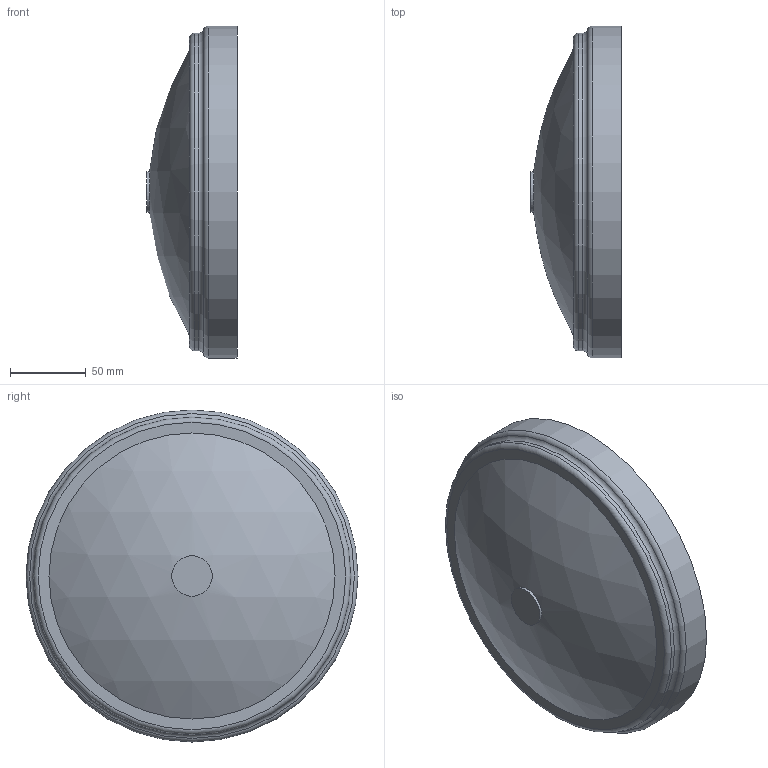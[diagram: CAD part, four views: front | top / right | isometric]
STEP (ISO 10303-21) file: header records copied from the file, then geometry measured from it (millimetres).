
FILE_DESCRIPTION(/* description */ ('VIC STRENGTHIN CAP No E496 w/Tap 1/2 inch BSPT (Concentric)','CAx-IF Rec.Pracs.---Representation and Presentation of Product Manufacturing Information (PMI)---4.0---2014-10-13'),/* implementation_level */ '2;1');
FILE_NAME(/* name */ 'C:\Users\Vjadhav\AppData\Roaming\Autodesk\ApplicationPlugins\Back Up\Victaulic_SS-StrengThin 100_Cap With Tap_No E496 (ST1)\Victaulic_SS-StrengThin 100_Cap With Tap_No E496 (ST1)_08.0x0.75 (200x20).stp',/* time_stamp */ '2020-07-07T18:47:13+05:00',/* author */ ('jheald'),/* organization */ ('Victaulic'),/* preprocessor_version */ 'ST-DEVELOPER v17.2',/* originating_system */ 'Autodesk Inventor 2019',/* authorisation */ '');
FILE_SCHEMA (('AP242_MANAGED_MODEL_BASED_3D_ENGINEERING_MIM_LF { 1 0 10303 442 1 1 4 }'));
Length unit declared in the file: inch
Products named in the file (1): E496-08.0x0.75
Bounding box: 59.44 x 219.07 x 219.07 mm (x, y, z)
Volume: 381986.9 mm3; surface area: 110418.7 mm2
Topology: 1 solids, 1 shells, 13 faces, 31 edges, 23 vertices
Faces by surface type: cylinder 4, torus 4, plane 3, sphere 2
Full cylindrical faces by diameter (mm): 26.67 x1, 202.717 x1, 209.55 x1, 219.075 x1
Entity records: 553 total; most frequent: DIRECTION 112, CARTESIAN_POINT 85, ORIENTED_EDGE 62, AXIS2_PLACEMENT_3D 54, EDGE_CURVE 31, CIRCLE 27, VERTEX_POINT 23, EDGE_LOOP 16
